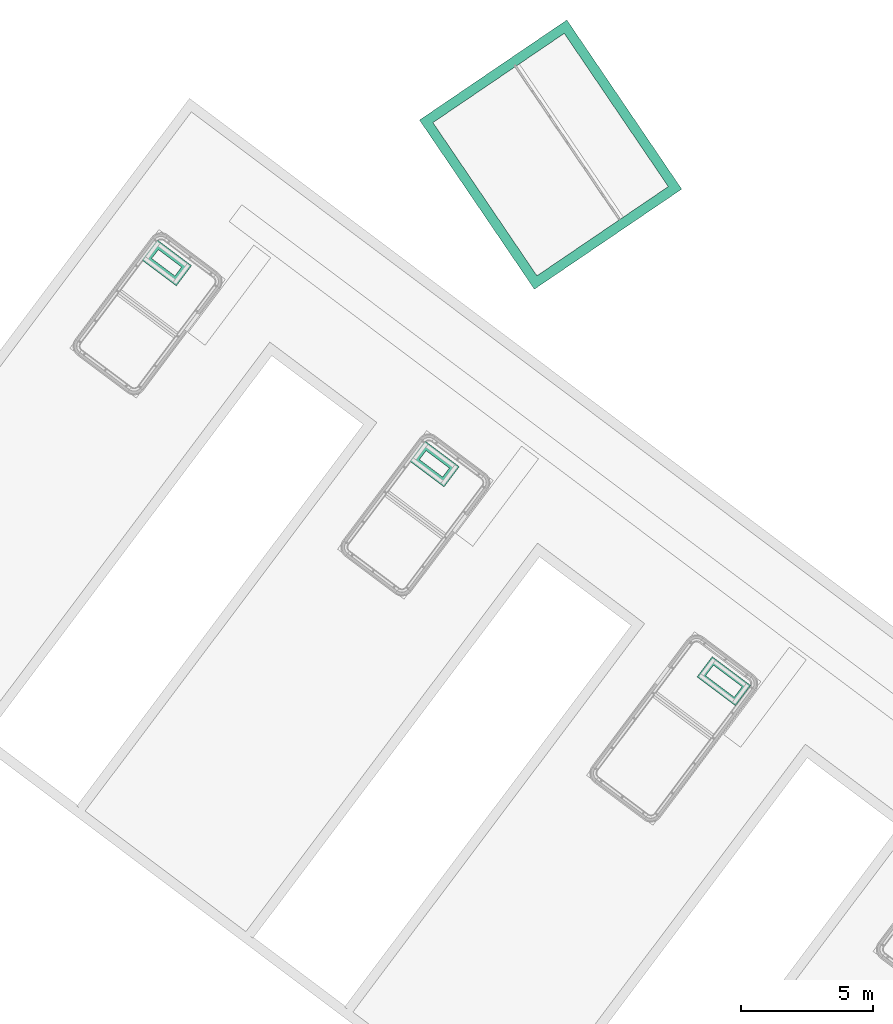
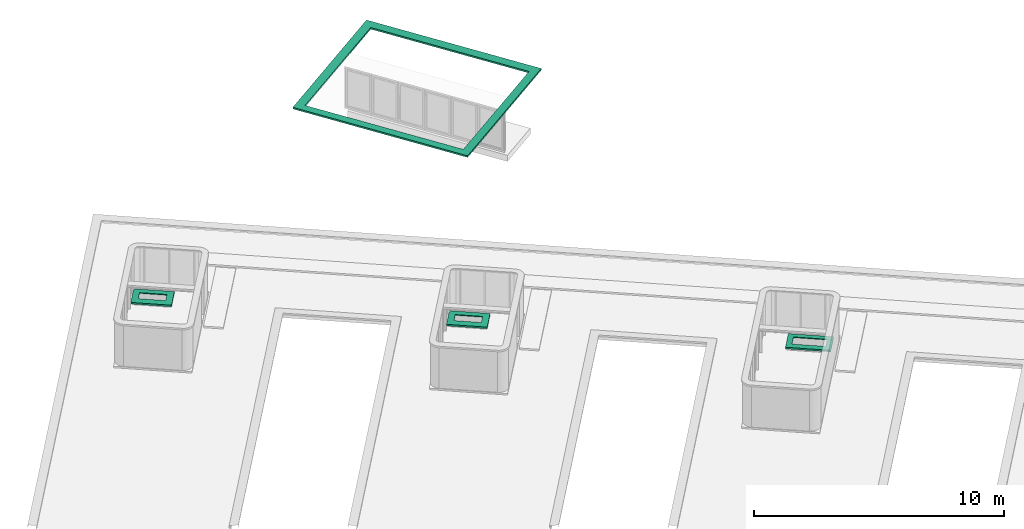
# One storey, part 27 of 28: 4 flow segments.
"""IFC2X3 building model written with IfcOpenShell, lengths in metres."""

import ifcopenshell
import ifcopenshell.guid

model = None  # the IFC model being written
_history = None  # IfcOwnerHistory: only IFC2X3 demands one
_inside = {}  # id of a spatial element -> (the spatial element, [elements in it])
_under = {}  # id of a project, library or spatial element -> (it, [spatial elements below it])
_declared = {}  # id of a project -> (the project, [libraries it declares])
_typed = {}  # id of a type object -> (the type object, [elements of that type])
_made_of = {}  # id of a material, layer set ... -> (it, [elements and type objects made of it])


def new_model(schema):
    """Start an empty IFC model of exactly this schema.

    Asked for "IFC4X3", IfcOpenShell would pick the latest addendum, in which some entities
    have other attributes; the version numbers below select the first issue.
    IFC2X3 requires an IfcOwnerHistory on every rooted entity: one is made here for all.
    """
    global model, _history
    if schema == "IFC4X3":
        model = ifcopenshell.file(schema_version=(4, 3, 0, 0))
    else:
        model = ifcopenshell.file(schema=schema)
    _inside.clear()
    _under.clear()
    _declared.clear()
    _typed.clear()
    _made_of.clear()
    _history = None
    if model.schema == "IFC2X3":
        org = make("IfcOrganization", Name="unknown")
        user = make(
            "IfcPersonAndOrganization",
            ThePerson=make("IfcPerson", FamilyName="unknown"),
            TheOrganization=org,
        )
        app = make(
            "IfcApplication",
            ApplicationDeveloper=org,
            Version="unknown",
            ApplicationFullName="unknown",
            ApplicationIdentifier="unknown",
        )
        _history = make(
            "IfcOwnerHistory",
            OwningUser=user,
            OwningApplication=app,
            ChangeAction="ADDED",
            CreationDate=0,
        )
    return model


def make(cls, **values):
    """One entity of the class cls with the attributes given. An attribute that is None is left unset."""
    return model.create_entity(
        cls, **{name: value for name, value in values.items() if value is not None}
    )


def entity(cls, *values):
    """Any entity or typed value of the class cls, its attributes in the order of the schema. None: left unset."""
    e = model.create_entity(cls)
    for i, value in enumerate(values):
        if value is not None:
            e[i] = value
    return e


def rooted(cls, **values):
    """An entity with a GlobalId (a new one), such as an element, a storey or a relation."""
    return make(cls, GlobalId=ifcopenshell.guid.new(), OwnerHistory=_history, **values)


def si_unit(unit_type, name, prefix=None):
    """IfcSIUnit, for example si_unit("LENGTHUNIT", "METRE", prefix="MILLI")."""
    return make("IfcSIUnit", UnitType=unit_type, Prefix=prefix, Name=name)


def converted_unit(unit_type, name, factor, base, dimensions=None, offset=None):
    """IfcConversionBasedUnit, such as the inch: factor (a typed value) times the base unit."""
    return make(
        "IfcConversionBasedUnit"
        if offset is None
        else "IfcConversionBasedUnitWithOffset",
        ConversionOffset=offset,
        Dimensions=None
        if dimensions is None
        else entity("IfcDimensionalExponents", *dimensions),
        UnitType=unit_type,
        Name=name,
        ConversionFactor=make(
            "IfcMeasureWithUnit", ValueComponent=factor, UnitComponent=base
        ),
    )


def derived_unit(unit_type, elements):
    """IfcDerivedUnit: a product of units, each with its exponent."""
    return make(
        "IfcDerivedUnit",
        Elements=[
            make("IfcDerivedUnitElement", Unit=unit, Exponent=power)
            for unit, power in elements
        ],
        UnitType=unit_type,
    )


def assignment(units):
    """IfcUnitAssignment: the units of a project."""
    return None if units is None else make("IfcUnitAssignment", Units=units)


def point(xyz):
    """IfcCartesianPoint."""
    return None if xyz is None else make("IfcCartesianPoint", Coordinates=xyz)


def direction(xyz):
    """IfcDirection."""
    return None if xyz is None else make("IfcDirection", DirectionRatios=xyz)


def frame(location, z_axis=None, x_axis=None):
    """IfcAxis2Placement3D, a coordinate frame: its origin and axes. An axis left out is left unset."""
    return make(
        "IfcAxis2Placement3D",
        Location=point(location),
        Axis=direction(z_axis),
        RefDirection=direction(x_axis),
    )


def origin():
    """The frame at (0, 0, 0) with its axes left unset."""
    return frame((0.0, 0.0, 0.0))


def place(relative_to, where):
    """IfcLocalPlacement: puts the frame where relative to a parent placement (None: the world)."""
    return make(
        "IfcLocalPlacement", PlacementRelTo=relative_to, RelativePlacement=where
    )


def context(
    kind, dimensions, precision=None, world=None, true_north=None, identifier=None
):
    """IfcGeometricRepresentationContext, for example the 3D "Model" context."""
    return make(
        "IfcGeometricRepresentationContext",
        ContextIdentifier=identifier,
        ContextType=kind,
        CoordinateSpaceDimension=dimensions,
        Precision=precision,
        WorldCoordinateSystem=world,
        TrueNorth=true_north,
    )


def subcontext(parent, identifier, kind, view, scale=None):
    """IfcGeometricRepresentationSubContext, for example "Body" below "Model"."""
    return make(
        "IfcGeometricRepresentationSubContext",
        ContextIdentifier=identifier,
        ContextType=kind,
        ParentContext=parent,
        TargetScale=scale,
        TargetView=view,
    )


def project(units=None, contexts=None):
    """IfcProject with its units and contexts."""
    return rooted(
        "IfcProject",
        Name="project",
        RepresentationContexts=contexts,
        UnitsInContext=assignment(units),
    )


def spatial(cls, under=None, at=None, **own):
    """A site, building, storey or space (cls), placed at a placement, below another one or the project."""
    s = rooted(cls, ObjectPlacement=at, **own)
    if under is not None:
        _under.setdefault(under.id(), (under, []))[1].append(s)
    return s


def faces_of(points, faces, orient=None, outer=None):
    """IfcFace entities. A face is a list of loops; a loop is a list of indices into points, from 0.

    orient and outer hold one flag for each loop. By default every Orientation is true, the
    first loop of a face is its IfcFaceOuterBound and the others are IfcFaceBound.
    """
    made = []
    for i, loops in enumerate(faces):
        bounds = []
        for j, loop in enumerate(loops):
            is_outer = j == 0 if outer is None else outer[i][j]
            bounds.append(
                make(
                    "IfcFaceOuterBound" if is_outer else "IfcFaceBound",
                    Bound=make("IfcPolyLoop", Polygon=[points[k] for k in loop]),
                    Orientation=True if orient is None else orient[i][j],
                )
            )
        made.append(make("IfcFace", Bounds=bounds))
    return made


def faceted_brep(points, faces, orient=None, outer=None, voids=None):
    """IfcFacetedBrep: a solid bounded by flat faces; with voids (closed shells), ...WithVoids."""
    shared = [point(p) for p in points]
    hull = make("IfcClosedShell", CfsFaces=faces_of(shared, faces, orient, outer))
    if voids is None:
        return make("IfcFacetedBrep", Outer=hull)
    return make(
        "IfcFacetedBrepWithVoids",
        Outer=hull,
        Voids=[
            make(cls, CfsFaces=faces_of(shared, fs, o, b)) for cls, fs, o, b in voids
        ],
    )


def shape(context_of_items, identifier, shape_type, items):
    """IfcShapeRepresentation: the items that make up one representation, for example the "Body"."""
    return make(
        "IfcShapeRepresentation",
        ContextOfItems=context_of_items,
        RepresentationIdentifier=identifier,
        RepresentationType=shape_type,
        Items=items,
    )


def source(mapping_origin, context_of_items, identifier, shape_type, items):
    """IfcRepresentationMap: a shape defined once, which mapped items show again and again."""
    return make(
        "IfcRepresentationMap",
        MappingOrigin=mapping_origin,
        MappedRepresentation=shape(context_of_items, identifier, shape_type, items),
    )


def transform(
    local_origin,
    x_axis=None,
    y_axis=None,
    z_axis=None,
    scale=None,
    scale2=None,
    scale3=None,
    uniform=True,
):
    """IfcCartesianTransformationOperator3D, or its non-uniform kind. x_axis, y_axis, z_axis: its Axis1, 2, 3."""
    if uniform:
        return make(
            "IfcCartesianTransformationOperator3D",
            Axis1=direction(x_axis),
            Axis2=direction(y_axis),
            LocalOrigin=point(local_origin),
            Scale=scale,
            Axis3=direction(z_axis),
        )
    return make(
        "IfcCartesianTransformationOperator3DnonUniform",
        Axis1=direction(x_axis),
        Axis2=direction(y_axis),
        LocalOrigin=point(local_origin),
        Scale=scale,
        Axis3=direction(z_axis),
        Scale2=scale2,
        Scale3=scale3,
    )


def mapped(mapping_source, mapping_target):
    """IfcMappedItem: shows the shape of a source again, moved by a transform."""
    return make(
        "IfcMappedItem", MappingSource=mapping_source, MappingTarget=mapping_target
    )


def made_of(thing, what):
    """Note that an element or type object is made of a material, layer set ...; save() writes the relation."""
    if what is not None:
        _made_of.setdefault(what.id(), (what, []))[1].append(thing)
    return thing


def type_object(cls, material=None, **own):
    """A type object (cls), such as IfcWallType, which elements share."""
    return made_of(rooted(cls, **own), material)


def type_shapes(of_type, sources):
    """Give a type object the sources (RepresentationMaps) that its elements show as mapped items."""
    of_type.RepresentationMaps = sources


def element(
    cls,
    number,
    at=None,
    inside=None,
    cuts=None,
    type_object=None,
    material=None,
    context=None,
    identifier="Body",
    shape_type=None,
    held_by="IfcProductDefinitionShape",
    body=None,
    shapes=None,
    **own,
):
    """One element of the class cls, such as IfcWall. Its Tag is "e" and its number.

    at: its placement. inside: the storey or other place that contains it. cuts: it is an
    opening in that element (IfcRelVoidsElement). A single representation is given by context,
    identifier, shape_type and body (its items); several are given by shapes. held_by: the class
    of the entity that holds the representations. save() writes the other relations.
    """
    e = rooted(cls, Tag="e%d" % number, ObjectPlacement=at, **own)
    if body is not None:
        shapes = [shape(context, identifier, shape_type, body)]
    if shapes is not None:
        e.Representation = make(held_by, Representations=shapes)
    if inside is not None:
        _inside.setdefault(inside.id(), (inside, []))[1].append(e)
    if cuts is not None:
        rooted(
            "IfcRelVoidsElement", RelatingBuildingElement=cuts, RelatedOpeningElement=e
        )
    if type_object is not None:
        _typed.setdefault(type_object.id(), (type_object, []))[1].append(e)
    return made_of(e, material)


def aggregate(whole, parts):
    """IfcRelAggregates: a whole, such as a stair, and the parts it consists of."""
    return rooted("IfcRelAggregates", RelatingObject=whole, RelatedObjects=parts)


def save(model, path):
    """Write the relations noted so far, then the file.

    IfcRelAggregates (storeys below a building ...), IfcRelContainedInSpatialStructure (elements
    in a storey), IfcRelDefinesByType, IfcRelAssociatesMaterial and IfcRelDeclares: one each for
    every whole, place, type object, material and project.
    """
    for whole, parts in _under.values():
        aggregate(whole, parts)
    for where, things in _inside.values():
        rooted(
            "IfcRelContainedInSpatialStructure",
            RelatedElements=things,
            RelatingStructure=where,
        )
    for kind, things in _typed.values():
        rooted("IfcRelDefinesByType", RelatedObjects=things, RelatingType=kind)
    for what, things in _made_of.values():
        rooted("IfcRelAssociatesMaterial", RelatedObjects=things, RelatingMaterial=what)
    for by, libraries in _declared.values():
        rooted("IfcRelDeclares", RelatingContext=by, RelatedDefinitions=libraries)
    model.write(path)


model = new_model("IFC2X3")

# Units and contexts
model_context = context("Model", 3, precision=1e-05, world=origin(), true_north=direction((6.123031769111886e-17, 1.0)))
body_context = subcontext(model_context, "Body", "Model", "MODEL_VIEW")
ifc_project = project(units=[si_unit("LENGTHUNIT", "METRE"), si_unit("AREAUNIT", "SQUARE_METRE"), si_unit("VOLUMEUNIT", "CUBIC_METRE"), converted_unit("PLANEANGLEUNIT", "DEGREE", entity("IfcRatioMeasure", 0.017453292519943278), si_unit("PLANEANGLEUNIT", "RADIAN"), dimensions=[0, 0, 0, 0, 0, 0, 0]), si_unit("MASSUNIT", "GRAM", prefix="KILO"), derived_unit("MASSDENSITYUNIT", [(si_unit("MASSUNIT", "GRAM", prefix="KILO"), 1), (si_unit("LENGTHUNIT", "METRE"), -3)]), derived_unit("IONCONCENTRATIONUNIT", [(si_unit("MASSUNIT", "GRAM", prefix="KILO"), 1), (si_unit("LENGTHUNIT", "METRE"), -3)]), derived_unit("MOMENTOFINERTIAUNIT", [(si_unit("LENGTHUNIT", "METRE"), 4)]), si_unit("TIMEUNIT", "SECOND"), si_unit("FREQUENCYUNIT", "HERTZ"), si_unit("THERMODYNAMICTEMPERATUREUNIT", "DEGREE_CELSIUS"), derived_unit("THERMALTRANSMITTANCEUNIT", [(si_unit("MASSUNIT", "GRAM", prefix="KILO"), 1), (si_unit("THERMODYNAMICTEMPERATUREUNIT", "KELVIN"), -1), (si_unit("TIMEUNIT", "SECOND"), -3)]), derived_unit("THERMALCONDUCTANCEUNIT", [(si_unit("MASSUNIT", "GRAM", prefix="KILO"), 1), (si_unit("THERMODYNAMICTEMPERATUREUNIT", "KELVIN"), -1), (si_unit("TIMEUNIT", "SECOND"), -3), (si_unit("LENGTHUNIT", "METRE"), 1)]), derived_unit("VOLUMETRICFLOWRATEUNIT", [(si_unit("LENGTHUNIT", "METRE"), 3), (si_unit("TIMEUNIT", "SECOND"), -1)]), derived_unit("MASSFLOWRATEUNIT", [(si_unit("MASSUNIT", "GRAM", prefix="KILO"), 1), (si_unit("TIMEUNIT", "SECOND"), -1)]), derived_unit("ROTATIONALFREQUENCYUNIT", [(si_unit("TIMEUNIT", "SECOND"), -1)]), si_unit("ELECTRICCURRENTUNIT", "AMPERE"), si_unit("ELECTRICVOLTAGEUNIT", "VOLT"), si_unit("POWERUNIT", "WATT"), si_unit("FORCEUNIT", "NEWTON", prefix="KILO"), si_unit("ILLUMINANCEUNIT", "LUX"), si_unit("LUMINOUSFLUXUNIT", "LUMEN"), si_unit("LUMINOUSINTENSITYUNIT", "CANDELA"), derived_unit("USERDEFINED", [(si_unit("MASSUNIT", "GRAM", prefix="KILO"), -1), (si_unit("LENGTHUNIT", "METRE"), -2), (si_unit("TIMEUNIT", "SECOND"), 3), (si_unit("LUMINOUSFLUXUNIT", "LUMEN"), 1)]), derived_unit("USERDEFINED", [(si_unit("MASSUNIT", "GRAM", prefix="KILO"), 1), (si_unit("TIMEUNIT", "SECOND"), -3), (si_unit("LENGTHUNIT", "METRE"), 3), (si_unit("ELECTRICCURRENTUNIT", "AMPERE"), -2)]), derived_unit("SOUNDPOWERUNIT", [(si_unit("MASSUNIT", "GRAM", prefix="KILO"), 1), (si_unit("TIMEUNIT", "SECOND"), -3), (si_unit("LENGTHUNIT", "METRE"), 2)]), derived_unit("SOUNDPRESSUREUNIT", [(si_unit("MASSUNIT", "GRAM", prefix="KILO"), 1), (si_unit("LENGTHUNIT", "METRE"), -1), (si_unit("TIMEUNIT", "SECOND"), -2)]), derived_unit("LINEARVELOCITYUNIT", [(si_unit("LENGTHUNIT", "METRE"), 1), (si_unit("TIMEUNIT", "SECOND"), -1)]), si_unit("PRESSUREUNIT", "PASCAL"), derived_unit("USERDEFINED", [(si_unit("MASSUNIT", "GRAM", prefix="KILO"), 1), (si_unit("LENGTHUNIT", "METRE"), -2), (si_unit("TIMEUNIT", "SECOND"), -2)]), derived_unit("LINEARFORCEUNIT", [(si_unit("MASSUNIT", "GRAM", prefix="KILO"), 1), (si_unit("TIMEUNIT", "SECOND"), -2)]), derived_unit("PLANARFORCEUNIT", [(si_unit("MASSUNIT", "GRAM", prefix="KILO"), 1), (si_unit("LENGTHUNIT", "METRE"), -1), (si_unit("TIMEUNIT", "SECOND"), -2)]), derived_unit("SPECIFICHEATCAPACITYUNIT", [(si_unit("THERMODYNAMICTEMPERATUREUNIT", "KELVIN"), -1), (si_unit("LENGTHUNIT", "METRE"), 2), (si_unit("TIMEUNIT", "SECOND"), -2)]), derived_unit("HEATINGVALUEUNIT", [(si_unit("LENGTHUNIT", "METRE"), 2), (si_unit("TIMEUNIT", "SECOND"), -2)]), derived_unit("VAPORPERMEABILITYUNIT", [(si_unit("LENGTHUNIT", "METRE"), -1), (si_unit("TIMEUNIT", "SECOND"), 1)]), derived_unit("DYNAMICVISCOSITYUNIT", [(si_unit("MASSUNIT", "GRAM", prefix="KILO"), 1), (si_unit("TIMEUNIT", "SECOND"), -1), (si_unit("LENGTHUNIT", "METRE"), -1)]), derived_unit("THERMALEXPANSIONCOEFFICIENTUNIT", [(si_unit("THERMODYNAMICTEMPERATUREUNIT", "KELVIN"), -1)]), derived_unit("MODULUSOFELASTICITYUNIT", [(si_unit("MASSUNIT", "GRAM", prefix="KILO"), 1), (si_unit("LENGTHUNIT", "METRE"), -1), (si_unit("TIMEUNIT", "SECOND"), -2)]), derived_unit("ISOTHERMALMOISTURECAPACITYUNIT", [(si_unit("LENGTHUNIT", "METRE"), 3), (si_unit("MASSUNIT", "GRAM", prefix="KILO"), -1)]), derived_unit("MOISTUREDIFFUSIVITYUNIT", [(si_unit("TIMEUNIT", "SECOND"), -1), (si_unit("LENGTHUNIT", "METRE"), 2)])], contexts=[model_context])

# Site, building, storey
site_placement = place(None, frame((0.0, 0.0, 235.0), z_axis=(0.0, 0.0, 1.0), x_axis=(-0.7996477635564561, 0.6004693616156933, 0.0)))
site = spatial("IfcSite", under=ifc_project, at=site_placement, Name="Default", CompositionType="ELEMENT")
building_placement = place(site_placement, origin())
building = spatial("IfcBuilding", under=site, at=building_placement, CompositionType="ELEMENT")
storey_placement = place(building_placement, frame((0.0, 0.0, 3.400000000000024)))
storey = spatial("IfcBuildingStorey", under=building, at=storey_placement, Name="PC- Coberta STR", CompositionType="ELEMENT", Elevation=3.400000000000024)

# Flow segments
pipe_segment_type_1 = type_object("IfcPipeSegmentType", Name="Canalón:COB- Remat xapa coberta- Mur Installacions", PredefinedType="GUTTER")
shared_shape_1 = source(origin(), body_context, "Body", "Brep", [
    faceted_brep([(0.017320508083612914, 0.9413208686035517, 0.010000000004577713), (0.0, 0.9586413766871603, 0.0), (1.6386413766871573, 0.958641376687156, 0.0), (1.6213208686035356, 0.9413208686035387, 0.010000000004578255), (0.01632050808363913, 0.9423208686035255, 0.011732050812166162), (1.6223208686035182, 0.9423208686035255, 0.011732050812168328), (0.0020000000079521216, 0.9566413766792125, 0.003464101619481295), (1.6366413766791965, 0.9566413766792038, 0.003464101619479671), (0.0020000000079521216, 0.9566413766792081, 0.07809750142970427), (1.6366413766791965, 0.9566413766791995, 0.07809750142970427), (0.2666411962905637, 0.6920001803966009, 0.09653146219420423), (1.3720001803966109, 0.6920001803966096, 0.09653146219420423), (0.2666411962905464, 0.6920001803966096, 0.05892359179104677), (1.3720001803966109, 0.6920001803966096, 0.058923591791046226), (0.25232068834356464, 0.7063206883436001, 0.06719154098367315), (1.3863206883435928, 0.7063206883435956, 0.06719154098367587), (0.2513206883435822, 0.7073206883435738, 0.06545949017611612), (1.3873206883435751, 0.7073206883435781, 0.0654594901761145), (0.2686411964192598, 0.6900001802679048, 0.05545949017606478), (1.3700001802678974, 0.6900001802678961, 0.05545949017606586), (0.2686411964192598, 0.6900001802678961, 0.0986549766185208), (1.3700001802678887, 0.6900001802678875, 0.09865497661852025), (0.0, 0.9586413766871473, 0.08000000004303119), (1.6386413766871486, 0.9586413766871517, 0.08000000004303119), (0.017320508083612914, 0.017320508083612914, 0.010000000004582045), (0.0, 0.0, 0.0), (0.01632050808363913, 0.016320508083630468, 0.011732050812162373), (0.0020000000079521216, 0.0020000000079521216, 0.003464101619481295), (0.0020000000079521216, 0.00200000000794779, 0.07809750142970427), (0.26664119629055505, 0.26664119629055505, 0.09653146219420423), (0.2666411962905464, 0.2666411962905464, 0.05892359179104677), (0.2523206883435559, 0.2523206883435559, 0.06719154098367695), (0.2513206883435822, 0.25132068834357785, 0.06545949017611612), (0.2686411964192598, 0.2686411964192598, 0.0554594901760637), (0.2686411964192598, 0.26864119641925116, 0.0986549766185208), (0.0, 0.0, 0.08000000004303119), (1.621320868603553, 0.01732050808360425, 0.010000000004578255), (1.6386413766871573, 0.0, 0.0), (1.6223208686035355, 0.016320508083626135, 0.01173205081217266), (1.6366413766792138, 0.0020000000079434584, 0.0034641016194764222), (1.6366413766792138, 0.00200000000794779, 0.07809750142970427), (1.3720001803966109, 0.2666411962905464, 0.0965314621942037), (1.3720001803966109, 0.2666411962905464, 0.05892359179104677), (1.3863206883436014, 0.2523206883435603, 0.06719154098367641), (1.3873206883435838, 0.25132068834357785, 0.0654594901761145), (1.3700001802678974, 0.2686411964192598, 0.0554594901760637), (1.370000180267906, 0.26864119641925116, 0.0986549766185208), (1.6386413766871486, 0.0, 0.08000000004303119)], [[[0, 1, 2, 3]], [[4, 0, 3, 5]], [[6, 4, 5, 7]], [[8, 6, 7, 9]], [[10, 8, 9, 11]], [[12, 10, 11, 13]], [[14, 12, 13, 15]], [[16, 14, 15, 17]], [[18, 16, 17, 19]], [[20, 18, 19, 21]], [[22, 20, 21, 23]], [[1, 22, 23, 2]], [[24, 25, 1, 0]], [[26, 24, 0, 4]], [[27, 26, 4, 6]], [[28, 27, 6, 8]], [[29, 28, 8, 10]], [[30, 29, 10, 12]], [[31, 30, 12, 14]], [[32, 31, 14, 16]], [[33, 32, 16, 18]], [[34, 33, 18, 20]], [[35, 34, 20, 22]], [[25, 35, 22, 1]], [[36, 37, 25, 24]], [[38, 36, 24, 26]], [[39, 38, 26, 27]], [[40, 39, 27, 28]], [[41, 40, 28, 29]], [[42, 41, 29, 30]], [[43, 42, 30, 31]], [[44, 43, 31, 32]], [[45, 44, 32, 33]], [[46, 45, 33, 34]], [[47, 46, 34, 35]], [[37, 47, 35, 25]], [[3, 2, 37, 36]], [[5, 3, 36, 38]], [[7, 5, 38, 39]], [[9, 7, 39, 40]], [[11, 9, 40, 41]], [[13, 11, 41, 42]], [[15, 13, 42, 43]], [[17, 15, 43, 44]], [[19, 17, 44, 45]], [[21, 19, 45, 46]], [[23, 21, 46, 47]], [[2, 23, 47, 37]]]),
])
type_shapes(pipe_segment_type_1, [shared_shape_1])
flow_segment_1_placement = place(storey_placement, frame((58.2008269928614, -37.33951063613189, 0.41946162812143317)))
element("IfcFlowSegment", 1, at=flow_segment_1_placement, inside=storey, type_object=pipe_segment_type_1, Name="Canalón:COB- Remat xapa coberta- Mur Installacions", ObjectType="Canalón:COB- Remat xapa coberta- Mur Installacions", context=body_context, shape_type="MappedRepresentation", body=[
    mapped(shared_shape_1, transform((0.0, 0.0, 0.0), scale=1.0)),
])
pipe_segment_type_2 = type_object("IfcPipeSegmentType", Name="Canalón:COB- Remat xapa coberta- Mur Installacions", PredefinedType="GUTTER")
shared_shape_2 = source(origin(), body_context, "Body", "Brep", [
    faceted_brep([(0.017320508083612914, 0.941320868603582, 0.010000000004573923), (0.0, 0.9586413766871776, 0.0), (1.6386413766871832, 0.9586413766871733, 0.0), (1.6213208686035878, 0.9413208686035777, 0.010000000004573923), (0.01632050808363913, 0.9423208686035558, 0.011732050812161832), (1.6223208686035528, 0.9423208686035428, 0.011732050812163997), (0.0020000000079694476, 0.9566413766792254, 0.0034641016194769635), (1.6366413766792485, 0.9566413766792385, 0.0034641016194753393), (0.0020000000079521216, 0.9566413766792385, 0.07809750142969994), (1.6366413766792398, 0.9566413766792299, 0.07809750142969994), (0.2666411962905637, 0.6920001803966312, 0.0965314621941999), (1.3720001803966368, 0.6920001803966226, 0.0965314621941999), (0.2666411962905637, 0.6920001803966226, 0.05892359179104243), (1.3720001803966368, 0.6920001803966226, 0.05892359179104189), (0.25232068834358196, 0.7063206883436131, 0.06719154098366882), (1.386320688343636, 0.7063206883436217, 0.06719154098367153), (0.2513206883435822, 0.7073206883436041, 0.06545949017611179), (1.3873206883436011, 0.7073206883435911, 0.06545949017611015), (0.26864119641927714, 0.6900001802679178, 0.05545949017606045), (1.370000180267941, 0.6900001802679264, 0.055459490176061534), (0.2686411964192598, 0.6900001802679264, 0.09865497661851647), (1.3700001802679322, 0.6900001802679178, 0.09865497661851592), (0.0, 0.9586413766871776, 0.08000000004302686), (1.6386413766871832, 0.9586413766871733, 0.08000000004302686), (0.017320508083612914, 0.017320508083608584, 0.010000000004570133), (0.0, 0.0, 0.0), (0.01632050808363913, 0.01632050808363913, 0.011732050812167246), (0.0020000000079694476, 0.0020000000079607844, 0.0034641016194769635), (0.0020000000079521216, 0.0020000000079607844, 0.07809750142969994), (0.26664119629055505, 0.2666411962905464, 0.09653146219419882), (0.2666411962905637, 0.2666411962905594, 0.05892359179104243), (0.2523206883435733, 0.25232068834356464, 0.06719154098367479), (0.2513206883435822, 0.2513206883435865, 0.06545949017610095), (0.26864119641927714, 0.2686411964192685, 0.05545949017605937), (0.2686411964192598, 0.2686411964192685, 0.09865497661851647), (0.0, 0.0, 0.08000000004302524), (1.6213208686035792, 0.017320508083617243, 0.010000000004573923), (1.6386413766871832, 0.0, 0.0), (1.6223208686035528, 0.01632050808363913, 0.011732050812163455), (1.6366413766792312, 0.0020000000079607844, 0.0034641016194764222), (1.6366413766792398, 0.0020000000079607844, 0.07809750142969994), (1.3720001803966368, 0.2666411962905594, 0.09653146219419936), (1.3720001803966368, 0.2666411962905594, 0.05892359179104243), (1.3863206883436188, 0.2523206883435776, 0.06719154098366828), (1.3873206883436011, 0.25132068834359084, 0.06545949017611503), (1.3700001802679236, 0.2686411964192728, 0.05545949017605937), (1.3700001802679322, 0.26864119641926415, 0.09865497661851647), (1.6386413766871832, 0.0, 0.08000000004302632)], [[[0, 1, 2, 3]], [[4, 0, 3, 5]], [[6, 4, 5, 7]], [[8, 6, 7, 9]], [[10, 8, 9, 11]], [[12, 10, 11, 13]], [[14, 12, 13, 15]], [[16, 14, 15, 17]], [[18, 16, 17, 19]], [[20, 18, 19, 21]], [[22, 20, 21, 23]], [[1, 22, 23, 2]], [[24, 25, 1, 0]], [[26, 24, 0, 4]], [[27, 26, 4, 6]], [[28, 27, 6, 8]], [[29, 28, 8, 10]], [[30, 29, 10, 12]], [[31, 30, 12, 14]], [[32, 31, 14, 16]], [[33, 32, 16, 18]], [[34, 33, 18, 20]], [[35, 34, 20, 22]], [[25, 35, 22, 1]], [[36, 37, 25, 24]], [[38, 36, 24, 26]], [[39, 38, 26, 27]], [[40, 39, 27, 28]], [[41, 40, 28, 29]], [[42, 41, 29, 30]], [[43, 42, 30, 31]], [[44, 43, 31, 32]], [[45, 44, 32, 33]], [[46, 45, 33, 34]], [[47, 46, 34, 35]], [[37, 47, 35, 25]], [[3, 2, 37, 36]], [[5, 3, 36, 38]], [[7, 5, 38, 39]], [[9, 7, 39, 40]], [[11, 9, 40, 41]], [[13, 11, 41, 42]], [[15, 13, 42, 43]], [[17, 15, 43, 44]], [[19, 17, 44, 45]], [[21, 19, 45, 46]], [[23, 21, 46, 47]], [[2, 23, 47, 37]]]),
])
type_shapes(pipe_segment_type_2, [shared_shape_2])
flow_segment_2_placement = place(storey_placement, frame((70.90082699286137, -37.33951063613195, 0.4194616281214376)))
element("IfcFlowSegment", 2, at=flow_segment_2_placement, inside=storey, type_object=pipe_segment_type_2, Name="Canalón:COB- Remat xapa coberta- Mur Installacions", ObjectType="Canalón:COB- Remat xapa coberta- Mur Installacions", context=body_context, shape_type="MappedRepresentation", body=[
    mapped(shared_shape_2, transform((0.0, 0.0, 0.0), scale=1.0)),
])
pipe_segment_type_3 = type_object("IfcPipeSegmentType", Name="Canalón:COB- Remat xapa coberta- Remats 15 cm", PredefinedType="GUTTER")
shared_shape_3 = source(origin(), body_context, "Body", "Brep", [
    faceted_brep([(0.017320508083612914, 0.017320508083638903, 0.010000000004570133), (0.0, 0.0, 0.0), (0.0, 0.9586413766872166, 0.0), (0.017320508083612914, 0.9413208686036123, 0.010000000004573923), (0.01632050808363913, 0.016320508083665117, 0.01173205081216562), (0.01632050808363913, 0.9423208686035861, 0.011732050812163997), (0.0020000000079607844, 0.002000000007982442, 0.0034641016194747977), (0.0020000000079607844, 0.9566413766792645, 0.0034641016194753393), (0.0020000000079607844, 0.0020000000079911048, 0.07809750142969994), (0.0020000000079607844, 0.9566413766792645, 0.07809750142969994), (0.2293206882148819, 0.22932068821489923, 0.09393184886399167), (0.2293206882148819, 0.7293206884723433, 0.09393184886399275), (0.0, 0.0, 0.08000000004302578), (0.2313206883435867, 0.23132068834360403, 0.0960633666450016), (0.2313206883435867, 0.7273206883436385, 0.0960633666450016), (0.0, 0.9586413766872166, 0.08000000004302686), (1.8197429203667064, 0.9586413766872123, 0.0), (1.802422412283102, 0.9413208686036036, 0.010000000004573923), (1.803422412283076, 0.9423208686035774, 0.011732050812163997), (1.8177429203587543, 0.9566413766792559, 0.0034641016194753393), (1.8177429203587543, 0.9566413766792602, 0.07809750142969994), (1.5904222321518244, 0.7293206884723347, 0.09393184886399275), (1.588422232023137, 0.7273206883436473, 0.09606336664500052), (1.8197429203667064, 0.958641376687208, 0.08000000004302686), (1.819742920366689, 0.0, 0.0), (1.802422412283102, 0.017320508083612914, 0.010000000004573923), (1.8034224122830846, 0.016320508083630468, 0.011732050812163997), (1.817742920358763, 0.0020000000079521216, 0.0034641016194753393), (1.8177429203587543, 0.0020000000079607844, 0.07809750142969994), (1.5904222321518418, 0.22932068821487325, 0.09393184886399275), (1.5884222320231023, 0.2313206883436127, 0.09606336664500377), (1.819742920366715, 0.0, 0.08000000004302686), (1.5904222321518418, 0.2293206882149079, 0.05892359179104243), (0.22932068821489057, 0.2293206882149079, 0.05892359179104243), (1.6047427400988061, 0.21500018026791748, 0.06719154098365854), (0.21500018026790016, 0.2150001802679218, 0.06719154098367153), (1.6057427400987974, 0.21400018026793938, 0.0654594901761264), (0.21400018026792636, 0.2140001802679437, 0.06545949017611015), (1.588422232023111, 0.2313206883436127, 0.05545949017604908), (0.23132068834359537, 0.23132068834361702, 0.055459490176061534), (0.2293206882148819, 0.7293206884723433, 0.05892359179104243), (0.2150001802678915, 0.7436411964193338, 0.06719154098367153), (0.2140001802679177, 0.7446411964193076, 0.06545949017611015), (0.2313206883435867, 0.7273206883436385, 0.055459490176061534), (1.5904222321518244, 0.7293206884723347, 0.05892359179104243), (1.6047427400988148, 0.7436411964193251, 0.06719154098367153), (1.6057427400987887, 0.7446411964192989, 0.06545949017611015), (1.5884222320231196, 0.7273206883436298, 0.055459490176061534)], [[[0, 1, 2, 3]], [[4, 0, 3, 5]], [[6, 4, 5, 7]], [[8, 6, 7, 9]], [[10, 8, 9, 11]], [[12, 13, 14, 15]], [[1, 12, 15, 2]], [[3, 2, 16, 17]], [[5, 3, 17, 18]], [[7, 5, 18, 19]], [[9, 7, 19, 20]], [[11, 9, 20, 21]], [[15, 14, 22, 23]], [[2, 15, 23, 16]], [[17, 16, 24, 25]], [[18, 17, 25, 26]], [[19, 18, 26, 27]], [[20, 19, 27, 28]], [[21, 20, 28, 29]], [[23, 22, 30, 31]], [[16, 23, 31, 24]], [[25, 24, 1, 0]], [[26, 25, 0, 4]], [[27, 26, 4, 6]], [[28, 27, 6, 8]], [[29, 28, 8, 10]], [[31, 30, 13, 12]], [[24, 31, 12, 1]], [[32, 29, 10, 33]], [[34, 32, 33, 35]], [[36, 34, 35, 37]], [[38, 36, 37, 39]], [[30, 38, 39, 13]], [[33, 10, 11, 40]], [[35, 33, 40, 41]], [[37, 35, 41, 42]], [[39, 37, 42, 43]], [[13, 39, 43, 14]], [[40, 11, 21, 44]], [[41, 40, 44, 45]], [[42, 41, 45, 46]], [[43, 42, 46, 47]], [[14, 43, 47, 22]], [[44, 21, 29, 32]], [[45, 44, 32, 34]], [[46, 45, 34, 36]], [[47, 46, 36, 38]], [[22, 47, 38, 30]]]),
])
type_shapes(pipe_segment_type_3, [shared_shape_3])
flow_segment_3_placement = place(storey_placement, frame((44.38072544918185, -37.33951063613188, 0.44946162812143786)))
element("IfcFlowSegment", 3, at=flow_segment_3_placement, inside=storey, type_object=pipe_segment_type_3, Name="Canalón:COB- Remat xapa coberta- Remats 15 cm", ObjectType="Canalón:COB- Remat xapa coberta- Remats 15 cm", context=body_context, shape_type="MappedRepresentation", body=[
    mapped(shared_shape_3, transform((0.0, 0.0, 0.0), scale=1.0)),
])
pipe_segment_type_4 = type_object("IfcPipeSegmentType", Name="Canalón:COB- Remat xapa coberta", PredefinedType="GUTTER")
shared_shape_4 = source(origin(), body_context, "Body", "Brep", [
    faceted_brep([(2.4175493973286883, 8.437933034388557, 0.0), (2.4067786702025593, 8.459932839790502, 0.01000000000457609), (9.08178106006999, 6.172691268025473, 0.010000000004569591), (9.059781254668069, 6.161920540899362, 0.0), (2.4074005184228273, 8.458662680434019, 0.011732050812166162), (9.080510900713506, 6.172069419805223, 0.011732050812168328), (2.416305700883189, 8.440473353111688, 0.0034641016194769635), (9.062321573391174, 6.163164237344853, 0.0034641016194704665), (2.416305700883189, 8.440473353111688, 0.07809750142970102), (9.062321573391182, 6.16316423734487, 0.07809750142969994), (2.190798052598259, 8.90108518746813, 0.10335777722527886), (9.522933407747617, 6.388671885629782, 0.10335777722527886), (2.190798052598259, 8.901085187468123, 0.028923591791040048), (9.522933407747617, 6.388671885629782, 0.028923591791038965), (2.1997032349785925, 8.882895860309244, 0.03719154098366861), (9.504744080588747, 6.379766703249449, 0.03719154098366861), (2.200325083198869, 8.88162570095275, 0.03545949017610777), (9.503473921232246, 6.379144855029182, 0.03545949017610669), (2.1895543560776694, 8.903625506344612, 0.02545949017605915), (9.525473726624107, 6.389915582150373, 0.025459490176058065), (2.1895543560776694, 8.903625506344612, 0.10546027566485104), (9.525473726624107, 6.389915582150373, 0.10546027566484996), (2.4175493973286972, 8.437933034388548, 0.08000000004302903), (9.059781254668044, 6.161920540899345, 0.08000000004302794), (0.4656924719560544, 2.7417049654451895, 0.0), (0.4436926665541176, 2.7309342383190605, 0.01000000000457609), (0.44496282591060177, 2.731556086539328, 0.011732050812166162), (0.4631521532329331, 2.7404612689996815, 0.0034641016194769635), (0.4631521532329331, 2.7404612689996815, 0.07809750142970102), (0.002540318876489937, 2.51495362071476, 0.10335777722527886), (0.002540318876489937, 2.51495362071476, 0.028923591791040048), (0.020729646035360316, 2.523858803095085, 0.03719154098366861), (0.02199980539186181, 2.5244806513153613, 0.03545949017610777), (0.0, 2.51370992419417, 0.02545949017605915), (0.0, 2.51370992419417, 0.10546027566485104), (0.46569247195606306, 2.7417049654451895, 0.08000000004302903), (7.107924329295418, 0.46569247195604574, 0.0), (7.118695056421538, 0.44369266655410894, 0.010000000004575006), (7.118073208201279, 0.4449628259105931, 0.011732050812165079), (7.109168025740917, 0.4631521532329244, 0.0034641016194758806), (7.109168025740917, 0.4631521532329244, 0.07809750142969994), (7.334675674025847, 0.002540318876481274, 0.10335777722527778), (7.334675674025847, 0.002540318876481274, 0.028923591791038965), (7.325770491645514, 0.020729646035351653, 0.037191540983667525), (7.325148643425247, 0.021999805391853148, 0.03545949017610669), (7.335919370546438, 0.0, 0.025459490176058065), (7.335919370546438, 0.0, 0.10546027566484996), (7.10792432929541, 0.4656924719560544, 0.08000000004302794)], [[[0, 1, 2, 3]], [[1, 4, 5, 2]], [[4, 6, 7, 5]], [[6, 8, 9, 7]], [[8, 10, 11, 9]], [[10, 12, 13, 11]], [[12, 14, 15, 13]], [[14, 16, 17, 15]], [[16, 18, 19, 17]], [[18, 20, 21, 19]], [[20, 22, 23, 21]], [[22, 0, 3, 23]], [[24, 25, 1, 0]], [[25, 26, 4, 1]], [[26, 27, 6, 4]], [[27, 28, 8, 6]], [[28, 29, 10, 8]], [[29, 30, 12, 10]], [[30, 31, 14, 12]], [[31, 32, 16, 14]], [[32, 33, 18, 16]], [[33, 34, 20, 18]], [[34, 35, 22, 20]], [[35, 24, 0, 22]], [[36, 37, 25, 24]], [[37, 38, 26, 25]], [[38, 39, 27, 26]], [[39, 40, 28, 27]], [[40, 41, 29, 28]], [[41, 42, 30, 29]], [[42, 43, 31, 30]], [[43, 44, 32, 31]], [[44, 45, 33, 32]], [[45, 46, 34, 33]], [[46, 47, 35, 34]], [[47, 36, 24, 35]], [[3, 2, 37, 36]], [[2, 5, 38, 37]], [[5, 7, 39, 38]], [[7, 9, 40, 39]], [[9, 11, 41, 40]], [[11, 13, 42, 41]], [[13, 15, 43, 42]], [[15, 17, 44, 43]], [[17, 19, 45, 44]], [[19, 21, 46, 45]], [[21, 23, 47, 46]], [[23, 3, 36, 47]]]),
])
type_shapes(pipe_segment_type_4, [shared_shape_4])
flow_segment_4_placement = place(storey_placement, frame((57.77516683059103, -53.33785843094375, 2.9994616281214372)))
element("IfcFlowSegment", 4, at=flow_segment_4_placement, inside=storey, type_object=pipe_segment_type_4, Name="Canalón:COB- Remat xapa coberta", ObjectType="Canalón:COB- Remat xapa coberta", context=body_context, shape_type="MappedRepresentation", body=[
    mapped(shared_shape_4, transform((0.0, 0.0, 0.0), scale=1.0)),
])

save(model, "model.ifc")
